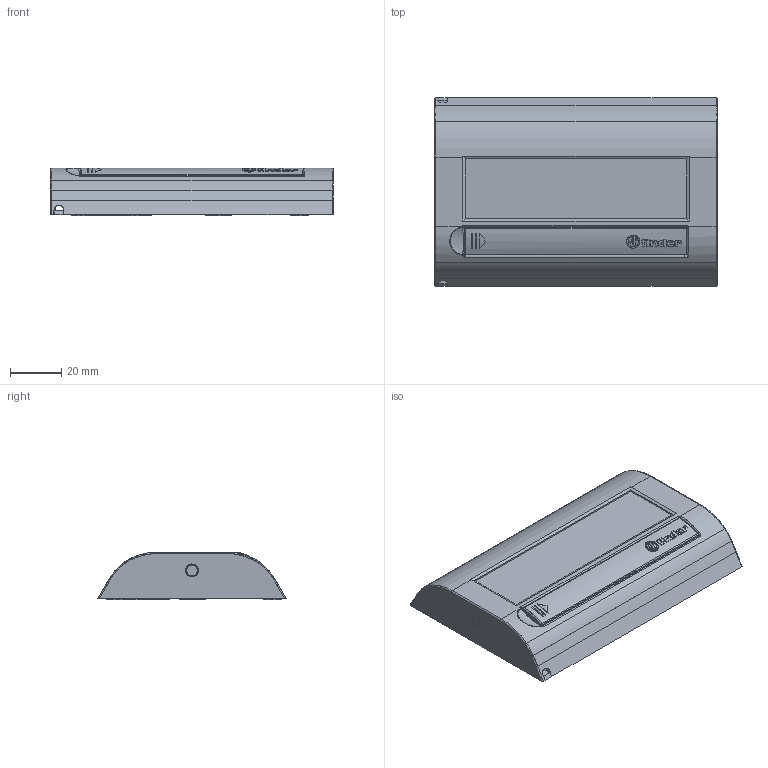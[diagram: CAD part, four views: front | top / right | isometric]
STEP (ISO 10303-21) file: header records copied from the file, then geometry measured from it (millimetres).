
FILE_DESCRIPTION(('STEP AP214'),'2;1');
FILE_NAME('1C71_think3_catalogo.stp','2012-03-20T09:20:50',(''),(''),'2007.1.106','THINKDESIGN','');
FILE_SCHEMA(('AUTOMOTIVE_DESIGN'));
Length unit declared in the file: millimetre
Products named in the file (1): top
Bounding box: 110 x 73.3 x 18.65 mm (x, y, z)
Surface area: 28919.9 mm2 (no closed solid volume)
Topology: 0 solids, 0 shells, 328 faces, 1813 edges, 1809 vertices
Faces by surface type: plane 185, cylinder 75, bspline 68
Full cylindrical faces by diameter (mm): 4.5 x1, 5 x3, 5.068 x1, 5.2 x2
Entity records: 19236 total; most frequent: CARTESIAN_POINT 10089, DIRECTION 1855, COMPOSITE_CURVE_SEGMENT 1800, TRIMMED_CURVE 1180, VECTOR 1027, LINE 1027, AXIS2_PLACEMENT_3D 414, STYLED_ITEM 328
